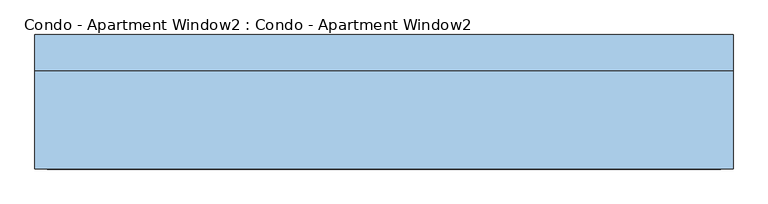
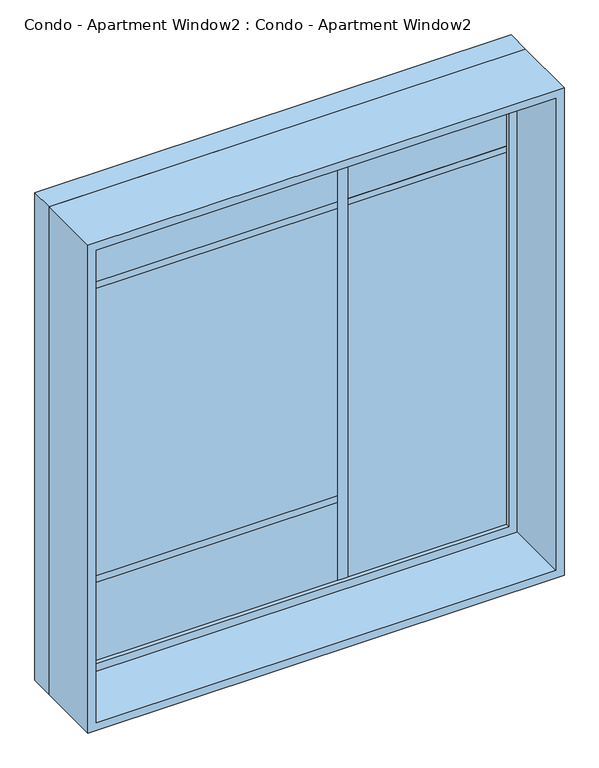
"""IFC4 building model written with IfcOpenShell, lengths in millimetres: window geometry, Condo - Apartment Window2 : Condo - Apartment Window2."""

from ifc_helpers import new_model, si_unit, frame, origin, place, context, project, spatial, polyline, outline, extrude, source, transform, mapped, element, save


def condo_apartment_window2_condo_apartment_window2_cbcd33dc(model_context):
    return source(origin(), model_context, "Body", "SweptSolid", [
        extrude(outline(polyline([(165.1, 122.2375), (203.2, 122.2375), (203.2, 96.8375), (165.1, 96.8375), (165.1, 122.2375)])), frame((0.0, 0.0, 660.4), z_axis=(0.0, 0.0, 1.0), x_axis=(1.0, 0.0, 0.0)), (0.0, 0.0, 1.0), 1854.2),
        extrude(outline(polyline([(-889.0, 122.2375), (165.1, 122.2375), (165.1, 96.8375), (-889.0, 96.8375), (-889.0, 122.2375)])), frame((0.0, 0.0, 977.9), z_axis=(0.0, 0.0, 1.0), x_axis=(1.0, 0.0, 0.0)), (0.0, 0.0, 1.0), 25.4),
        extrude(outline(polyline([(-889.0, 122.2375), (165.1, 122.2375), (165.1, 96.8375), (-889.0, 96.8375), (-889.0, 122.2375)])), frame((0.0, 0.0, 2171.7), z_axis=(0.0, 0.0, 1.0), x_axis=(1.0, 0.0, 0.0)), (0.0, 0.0, 1.0), 25.4),
        extrude(outline(polyline([(203.2, 122.2375), (812.8, 122.2375), (812.8, 96.8375), (203.2, 96.8375), (203.2, 122.2375)])), frame((0.0, 0.0, 2171.7), z_axis=(0.0, 0.0, 1.0), x_axis=(1.0, 0.0, 0.0)), (0.0, 0.0, 1.0), 25.4),
        extrude(outline(polyline([(812.8, 96.8375), (-889.0, 96.8375), (-889.0, 109.5375), (812.8, 109.5375), (812.8, 96.8375)])), frame((0.0, 0.0, 660.4), z_axis=(0.0, 0.0, 1.0), x_axis=(1.0, 0.0, 0.0)), (0.0, 0.0, 1.0), 1854.2),
        extrude(outline(polyline([(2559.05, -933.45), (615.95, -933.45), (615.95, 857.25), (2559.05, 857.25), (2559.05, -933.45)]), holes=[polyline([(2514.6, -889.0), (2514.6, 812.8), (660.4, 812.8), (660.4, -889.0), (2514.6, -889.0)])]), frame((0.0, 80.9625, 0.0), z_axis=(0.0, 1.0, 0.0), x_axis=(0.0, 0.0, 1.0)), (0.0, 0.0, 1.0), 44.45),
        extrude(outline(polyline([(2578.1, -952.5), (596.9, -952.5), (596.9, 876.3), (2578.1, 876.3), (2578.1, -952.5)]), holes=[polyline([(2546.35, -920.75), (2546.35, 844.55), (628.65, 844.55), (628.65, -920.75), (2546.35, -920.75)])]), frame((0.0, -176.2125, 0.0), z_axis=(0.0, 1.0, 0.0), x_axis=(0.0, 0.0, 1.0)), (0.0, 0.0, 1.0), 257.175),
        extrude(outline(polyline([(2578.1, 876.3), (2578.1, -952.5), (596.9, -952.5), (596.9, 876.3), (2578.1, 876.3)]), holes=[polyline([(2559.05, 857.25), (615.95, 857.25), (615.95, -933.45), (2559.05, -933.45), (2559.05, 857.25)])]), frame((0.0, 80.9625, 0.0), z_axis=(0.0, 1.0, 0.0), x_axis=(0.0, 0.0, 1.0)), (0.0, 0.0, 1.0), 95.25),
    ])


if __name__ == "__main__":
    model = new_model("IFC4")
    model_context = context("Model", 3, world=origin())
    ifc_project = project(units=[si_unit("LENGTHUNIT", "METRE", prefix="MILLI")], contexts=[model_context])
    site = spatial("IfcSite", under=ifc_project)
    building = spatial("IfcBuilding", under=site)
    placement = place(None, origin())
    condo_apartment_window2_condo_apartment_window2_shape = condo_apartment_window2_condo_apartment_window2_cbcd33dc(model_context)
    element("IfcWindow", 1, ObjectType="Condo - Apartment Window2 : Condo - Apartment Window2", at=placement, inside=building, context=model_context, shape_type="MappedRepresentation", body=[
        mapped(condo_apartment_window2_condo_apartment_window2_shape, transform((0.0, 0.0, 0.0), x_axis=(1.0, 0.0, 0.0), y_axis=(0.0, 1.0, 0.0), z_axis=(0.0, 0.0, 1.0))),
    ])
    save(model, "model.ifc")
